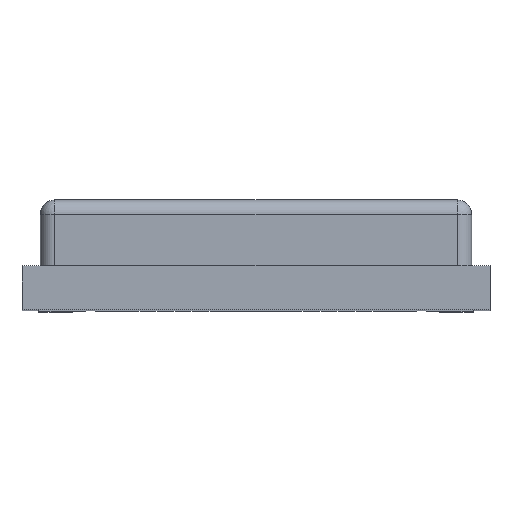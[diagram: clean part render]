
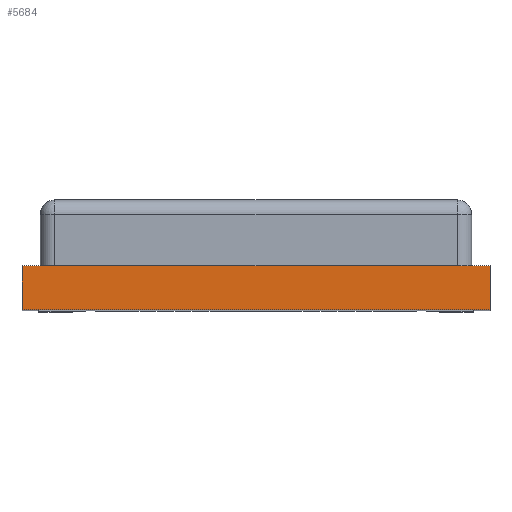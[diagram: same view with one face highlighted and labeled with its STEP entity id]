
A CAD part, top view. The second image highlights one B-rep face of the part: STEP entity #5684.
In plain terms, the highlighted planar face has unit normal (0, 0, 1).
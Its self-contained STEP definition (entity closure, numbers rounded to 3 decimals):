
#61=DIRECTION('',(-1.,0.,0.));
#62=VECTOR('',#61,6.4);
#63=CARTESIAN_POINT('',(3.2,0.,4.2));
#64=LINE('',#63,#62);
#75=DIRECTION('',(0.,1.,0.));
#76=VECTOR('',#75,0.6);
#77=CARTESIAN_POINT('',(-3.2,-0.6,4.2));
#78=LINE('',#77,#76);
#82=DIRECTION('',(0.,1.,0.));
#83=VECTOR('',#82,0.6);
#84=CARTESIAN_POINT('',(3.2,-0.6,4.2));
#85=LINE('',#84,#83);
#103=DIRECTION('',(-1.,0.,0.));
#104=VECTOR('',#103,6.4);
#105=CARTESIAN_POINT('',(3.2,-0.6,4.2));
#106=LINE('',#105,#104);
#4744=CARTESIAN_POINT('',(-3.2,0.,4.2));
#4746=VERTEX_POINT('',#4744);
#4748=CARTESIAN_POINT('',(3.2,0.,4.2));
#4749=VERTEX_POINT('',#4748);
#4752=CARTESIAN_POINT('',(-3.2,-0.6,4.2));
#4754=VERTEX_POINT('',#4752);
#4756=CARTESIAN_POINT('',(3.2,-0.6,4.2));
#4757=VERTEX_POINT('',#4756);
#5671=CARTESIAN_POINT('',(-3.2,0.,4.2));
#5672=DIRECTION('',(0.,0.,1.));
#5673=DIRECTION('',(1.,0.,0.));
#5674=AXIS2_PLACEMENT_3D('',#5671,#5672,#5673);
#5675=PLANE('',#5674);
#5676=ORIENTED_EDGE('',*,*,#5651,.F.);
#5678=ORIENTED_EDGE('',*,*,#5677,.F.);
#5680=ORIENTED_EDGE('',*,*,#5679,.T.);
#5681=ORIENTED_EDGE('',*,*,#5662,.T.);
#5682=EDGE_LOOP('',(#5676,#5678,#5680,#5681));
#5683=FACE_OUTER_BOUND('',#5682,.F.);
#5651=EDGE_CURVE('',#4749,#4746,#64,.T.);
#5662=EDGE_CURVE('',#4754,#4746,#78,.T.);
#5677=EDGE_CURVE('',#4757,#4749,#85,.T.);
#5679=EDGE_CURVE('',#4757,#4754,#106,.T.);
#5684=ADVANCED_FACE('',(#5683),#5675,.T.);
